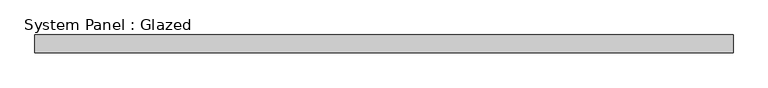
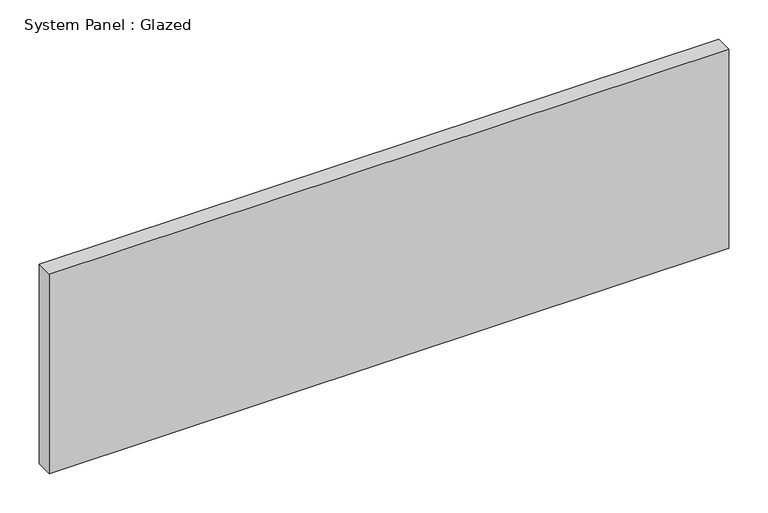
"""IFC4 building model written with IfcOpenShell, lengths in millimetres: plate geometry, System Panel : Glazed."""

from ifc_helpers import new_model, si_unit, origin, origin_with_axes, place, context, project, spatial, polyline, outline, extrude, source, transform, mapped, element, save


def system_panel_glazed_0da01d59(model_context):
    return source(origin(), model_context, "Body", "SweptSolid", [
        extrude(outline(polyline([(501.1964286, 19.05), (-501.1964286, 19.05), (-501.1964286, 44.45), (501.1964286, 44.45), (501.1964286, 19.05)])), origin_with_axes(), (0.0, 0.0, 1.0), 310.8709562),
    ])


if __name__ == "__main__":
    model = new_model("IFC4")
    model_context = context("Model", 3, world=origin())
    ifc_project = project(units=[si_unit("LENGTHUNIT", "METRE", prefix="MILLI")], contexts=[model_context])
    site = spatial("IfcSite", under=ifc_project)
    building = spatial("IfcBuilding", under=site)
    placement = place(None, origin())
    system_panel_glazed_shape = system_panel_glazed_0da01d59(model_context)
    element("IfcPlate", 1, ObjectType="System Panel : Glazed", at=placement, inside=building, context=model_context, shape_type="MappedRepresentation", body=[
        mapped(system_panel_glazed_shape, transform((0.0, 0.0, 0.0), x_axis=(1.0, 0.0, 0.0), y_axis=(0.0, 1.0, 0.0), z_axis=(0.0, 0.0, 1.0))),
    ])
    save(model, "model.ifc")
